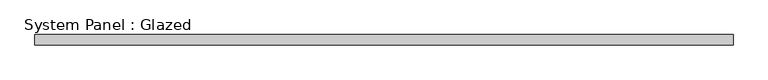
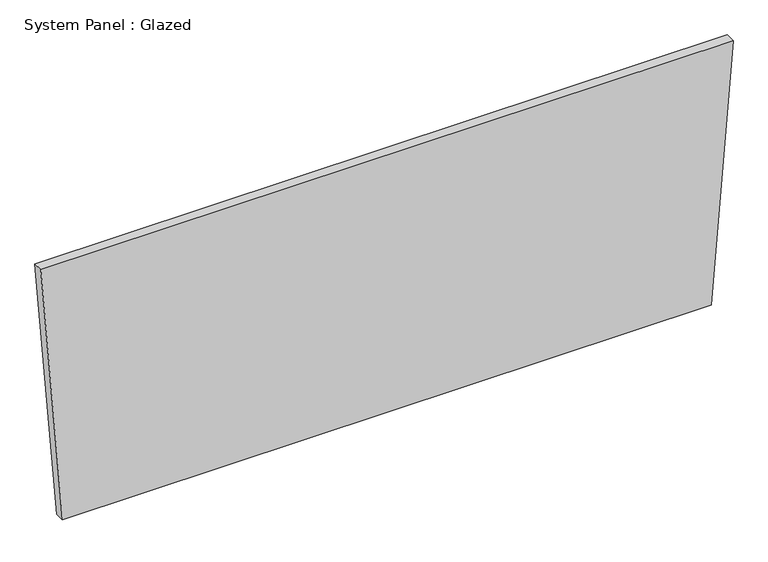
"""IFC4 building model written with IfcOpenShell, lengths in millimetres: plate geometry, System Panel : Glazed."""

import ifcopenshell
import ifcopenshell.guid

model = None  # the IFC model being written
_history = None  # IfcOwnerHistory: only IFC2X3 demands one
_inside = {}  # id of a spatial element -> (the spatial element, [elements in it])
_under = {}  # id of a project, library or spatial element -> (it, [spatial elements below it])
_declared = {}  # id of a project -> (the project, [libraries it declares])
_typed = {}  # id of a type object -> (the type object, [elements of that type])
_made_of = {}  # id of a material, layer set ... -> (it, [elements and type objects made of it])


def new_model(schema):
    """Start an empty IFC model of exactly this schema.

    Asked for "IFC4X3", IfcOpenShell would pick the latest addendum, in which some entities
    have other attributes; the version numbers below select the first issue.
    IFC2X3 requires an IfcOwnerHistory on every rooted entity: one is made here for all.
    """
    global model, _history
    if schema == "IFC4X3":
        model = ifcopenshell.file(schema_version=(4, 3, 0, 0))
    else:
        model = ifcopenshell.file(schema=schema)
    _inside.clear()
    _under.clear()
    _declared.clear()
    _typed.clear()
    _made_of.clear()
    _history = None
    if model.schema == "IFC2X3":
        org = make("IfcOrganization", Name="unknown")
        user = make(
            "IfcPersonAndOrganization",
            ThePerson=make("IfcPerson", FamilyName="unknown"),
            TheOrganization=org,
        )
        app = make(
            "IfcApplication",
            ApplicationDeveloper=org,
            Version="unknown",
            ApplicationFullName="unknown",
            ApplicationIdentifier="unknown",
        )
        _history = make(
            "IfcOwnerHistory",
            OwningUser=user,
            OwningApplication=app,
            ChangeAction="ADDED",
            CreationDate=0,
        )
    return model


def make(cls, **values):
    """One entity of the class cls with the attributes given. An attribute that is None is left unset."""
    return model.create_entity(
        cls, **{name: value for name, value in values.items() if value is not None}
    )


def rooted(cls, **values):
    """An entity with a GlobalId (a new one), such as an element, a storey or a relation."""
    return make(cls, GlobalId=ifcopenshell.guid.new(), OwnerHistory=_history, **values)


def si_unit(unit_type, name, prefix=None):
    """IfcSIUnit, for example si_unit("LENGTHUNIT", "METRE", prefix="MILLI")."""
    return make("IfcSIUnit", UnitType=unit_type, Prefix=prefix, Name=name)


def assignment(units):
    """IfcUnitAssignment: the units of a project."""
    return None if units is None else make("IfcUnitAssignment", Units=units)


def point(xyz):
    """IfcCartesianPoint."""
    return None if xyz is None else make("IfcCartesianPoint", Coordinates=xyz)


def direction(xyz):
    """IfcDirection."""
    return None if xyz is None else make("IfcDirection", DirectionRatios=xyz)


def frame(location, z_axis=None, x_axis=None):
    """IfcAxis2Placement3D, a coordinate frame: its origin and axes. An axis left out is left unset."""
    return make(
        "IfcAxis2Placement3D",
        Location=point(location),
        Axis=direction(z_axis),
        RefDirection=direction(x_axis),
    )


def origin():
    """The frame at (0, 0, 0) with its axes left unset."""
    return frame((0.0, 0.0, 0.0))


def place(relative_to, where):
    """IfcLocalPlacement: puts the frame where relative to a parent placement (None: the world)."""
    return make(
        "IfcLocalPlacement", PlacementRelTo=relative_to, RelativePlacement=where
    )


def context(
    kind, dimensions, precision=None, world=None, true_north=None, identifier=None
):
    """IfcGeometricRepresentationContext, for example the 3D "Model" context."""
    return make(
        "IfcGeometricRepresentationContext",
        ContextIdentifier=identifier,
        ContextType=kind,
        CoordinateSpaceDimension=dimensions,
        Precision=precision,
        WorldCoordinateSystem=world,
        TrueNorth=true_north,
    )


def project(units=None, contexts=None):
    """IfcProject with its units and contexts."""
    return rooted(
        "IfcProject",
        Name="project",
        RepresentationContexts=contexts,
        UnitsInContext=assignment(units),
    )


def spatial(cls, under=None, at=None, **own):
    """A site, building, storey or space (cls), placed at a placement, below another one or the project."""
    s = rooted(cls, ObjectPlacement=at, **own)
    if under is not None:
        _under.setdefault(under.id(), (under, []))[1].append(s)
    return s


def polyline(points):
    """IfcPolyline through the points."""
    return make("IfcPolyline", Points=[point(p) for p in points])


def outline(outer, holes=None, kind="AREA"):
    """IfcArbitraryClosedProfileDef: a profile drawn as a closed curve; with holes, ...WithVoids."""
    if holes is None:
        return make("IfcArbitraryClosedProfileDef", ProfileType=kind, OuterCurve=outer)
    return make(
        "IfcArbitraryProfileDefWithVoids",
        ProfileType=kind,
        OuterCurve=outer,
        InnerCurves=holes,
    )


def extrude(swept, where, along, depth):
    """IfcExtrudedAreaSolid: the profile swept, set in the frame where, extruded along a direction by depth."""
    return make(
        "IfcExtrudedAreaSolid",
        SweptArea=swept,
        Position=where,
        ExtrudedDirection=direction(along),
        Depth=depth,
    )


def shape(context_of_items, identifier, shape_type, items):
    """IfcShapeRepresentation: the items that make up one representation, for example the "Body"."""
    return make(
        "IfcShapeRepresentation",
        ContextOfItems=context_of_items,
        RepresentationIdentifier=identifier,
        RepresentationType=shape_type,
        Items=items,
    )


def source(mapping_origin, context_of_items, identifier, shape_type, items):
    """IfcRepresentationMap: a shape defined once, which mapped items show again and again."""
    return make(
        "IfcRepresentationMap",
        MappingOrigin=mapping_origin,
        MappedRepresentation=shape(context_of_items, identifier, shape_type, items),
    )


def transform(
    local_origin,
    x_axis=None,
    y_axis=None,
    z_axis=None,
    scale=None,
    scale2=None,
    scale3=None,
    uniform=True,
):
    """IfcCartesianTransformationOperator3D, or its non-uniform kind. x_axis, y_axis, z_axis: its Axis1, 2, 3."""
    if uniform:
        return make(
            "IfcCartesianTransformationOperator3D",
            Axis1=direction(x_axis),
            Axis2=direction(y_axis),
            LocalOrigin=point(local_origin),
            Scale=scale,
            Axis3=direction(z_axis),
        )
    return make(
        "IfcCartesianTransformationOperator3DnonUniform",
        Axis1=direction(x_axis),
        Axis2=direction(y_axis),
        LocalOrigin=point(local_origin),
        Scale=scale,
        Axis3=direction(z_axis),
        Scale2=scale2,
        Scale3=scale3,
    )


def mapped(mapping_source, mapping_target):
    """IfcMappedItem: shows the shape of a source again, moved by a transform."""
    return make(
        "IfcMappedItem", MappingSource=mapping_source, MappingTarget=mapping_target
    )


def made_of(thing, what):
    """Note that an element or type object is made of a material, layer set ...; save() writes the relation."""
    if what is not None:
        _made_of.setdefault(what.id(), (what, []))[1].append(thing)
    return thing


def element(
    cls,
    number,
    at=None,
    inside=None,
    cuts=None,
    type_object=None,
    material=None,
    context=None,
    identifier="Body",
    shape_type=None,
    held_by="IfcProductDefinitionShape",
    body=None,
    shapes=None,
    **own,
):
    """One element of the class cls, such as IfcWall. Its Tag is "e" and its number.

    at: its placement. inside: the storey or other place that contains it. cuts: it is an
    opening in that element (IfcRelVoidsElement). A single representation is given by context,
    identifier, shape_type and body (its items); several are given by shapes. held_by: the class
    of the entity that holds the representations. save() writes the other relations.
    """
    e = rooted(cls, Tag="e%d" % number, ObjectPlacement=at, **own)
    if body is not None:
        shapes = [shape(context, identifier, shape_type, body)]
    if shapes is not None:
        e.Representation = make(held_by, Representations=shapes)
    if inside is not None:
        _inside.setdefault(inside.id(), (inside, []))[1].append(e)
    if cuts is not None:
        rooted(
            "IfcRelVoidsElement", RelatingBuildingElement=cuts, RelatedOpeningElement=e
        )
    if type_object is not None:
        _typed.setdefault(type_object.id(), (type_object, []))[1].append(e)
    return made_of(e, material)


def aggregate(whole, parts):
    """IfcRelAggregates: a whole, such as a stair, and the parts it consists of."""
    return rooted("IfcRelAggregates", RelatingObject=whole, RelatedObjects=parts)


def save(model, path):
    """Write the relations noted so far, then the file.

    IfcRelAggregates (storeys below a building ...), IfcRelContainedInSpatialStructure (elements
    in a storey), IfcRelDefinesByType, IfcRelAssociatesMaterial and IfcRelDeclares: one each for
    every whole, place, type object, material and project.
    """
    for whole, parts in _under.values():
        aggregate(whole, parts)
    for where, things in _inside.values():
        rooted(
            "IfcRelContainedInSpatialStructure",
            RelatedElements=things,
            RelatingStructure=where,
        )
    for kind, things in _typed.values():
        rooted("IfcRelDefinesByType", RelatedObjects=things, RelatingType=kind)
    for what, things in _made_of.values():
        rooted("IfcRelAssociatesMaterial", RelatedObjects=things, RelatingMaterial=what)
    for by, libraries in _declared.values():
        rooted("IfcRelDeclares", RelatingContext=by, RelatedDefinitions=libraries)
    model.write(path)


def system_panel_glazed_2b1205ff(model_context):
    return source(origin(), model_context, "Body", "SweptSolid", [
        extrude(outline(polyline([(0.0, -813.070664), (0.0001958, 813.0706629), (682.1116712, 867.3486725), (682.1114623, -867.3486725), (0.0, -813.070664)])), frame((0.0, 19.05, 0.0), z_axis=(0.0, 1.0, 0.0), x_axis=(0.0, 0.0, 1.0)), (0.0, 0.0, 1.0), 25.4),
    ])


if __name__ == "__main__":
    model = new_model("IFC4")
    model_context = context("Model", 3, world=origin())
    ifc_project = project(units=[si_unit("LENGTHUNIT", "METRE", prefix="MILLI")], contexts=[model_context])
    site = spatial("IfcSite", under=ifc_project)
    building = spatial("IfcBuilding", under=site)
    placement = place(None, origin())
    system_panel_glazed_shape = system_panel_glazed_2b1205ff(model_context)
    element("IfcPlate", 1, ObjectType="System Panel : Glazed", at=placement, inside=building, context=model_context, shape_type="MappedRepresentation", body=[
        mapped(system_panel_glazed_shape, transform((0.0, 0.0, 0.0), x_axis=(1.0, 0.0, 0.0), y_axis=(0.0, 1.0, 0.0), z_axis=(0.0, 0.0, 1.0))),
    ])
    save(model, "model.ifc")
